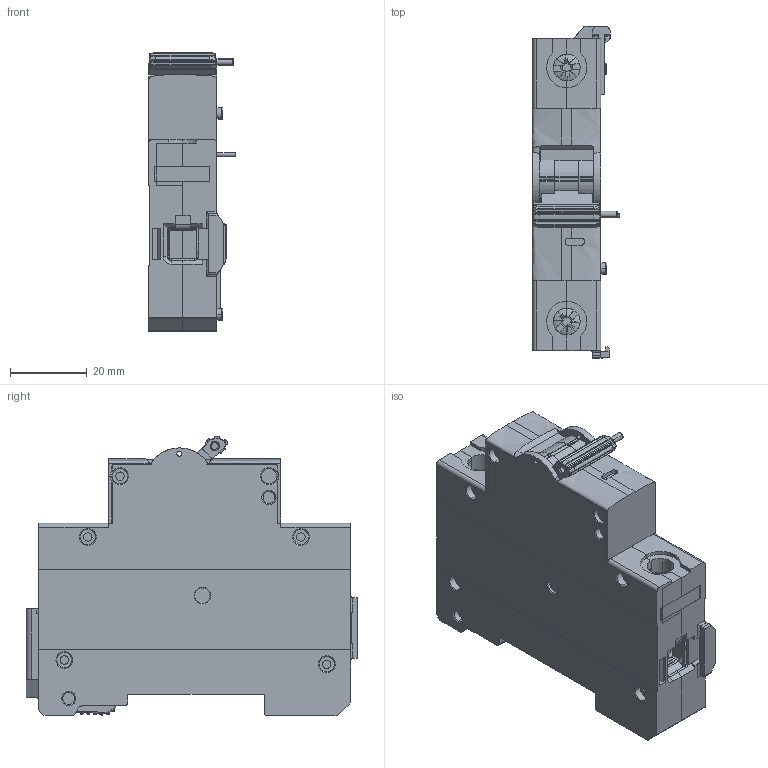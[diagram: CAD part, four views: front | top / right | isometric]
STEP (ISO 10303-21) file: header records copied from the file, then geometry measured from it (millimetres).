
FILE_DESCRIPTION (( 'STEP AP214' ), '1' );
FILE_NAME ('MX.STEP', '2026-07-07T09:02:27', ( '' ), ( '' ), 'SwSTEP 2.0', 'SolidWorks 2022', '' );
FILE_SCHEMA (( 'AUTOMOTIVE_DESIGN' ));
Length unit declared in the file: millimetre
Products named in the file (1): MX
Bounding box: 22.65 x 86.7 x 72.89 mm (x, y, z)
Volume: 75662.7 mm3; surface area: 39398.1 mm2
Topology: 2 solids, 18 shells, 2125 faces, 5734 edges, 3673 vertices
Faces by surface type: plane 1324, cylinder 468, bspline 163, torus 80, cone 74, sphere 16
Entity records: 74276 total; most frequent: CARTESIAN_POINT 21873, ORIENTED_EDGE 11394, DIRECTION 10178, EDGE_CURVE 5697, LINE 3952, VECTOR 3952, VERTEX_POINT 3673, AXIS2_PLACEMENT_3D 3113
